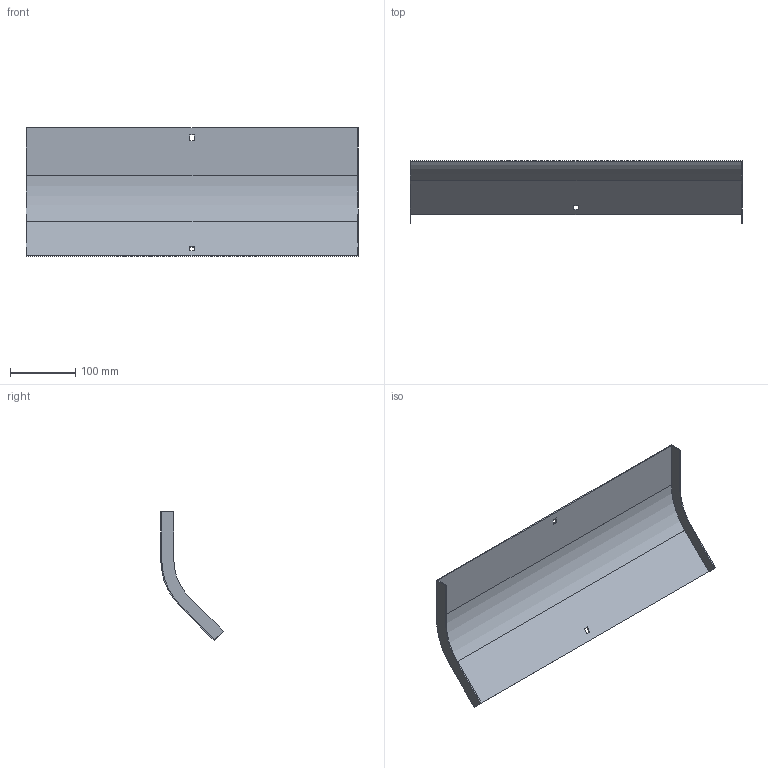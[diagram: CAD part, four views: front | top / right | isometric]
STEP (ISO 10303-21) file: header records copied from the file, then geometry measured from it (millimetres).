
FILE_DESCRIPTION (( 'STEP AP214' ), '1' );
FILE_NAME ('34G1D500.step', '2025-02-21T12:42:31', ( '' ), ( '' ), 'SwSTEP 2.0', 'SolidWorks 2023', '' );
FILE_SCHEMA (( 'AUTOMOTIVE_DESIGN' ));
Length unit declared in the file: millimetre
Products named in the file (1): 34G1D500
Bounding box: 507 x 95.56 x 196.56 mm (x, y, z)
Volume: 183257 mm3; surface area: 246700 mm2
Topology: 1 solids, 1 shells, 26 faces, 72 edges, 48 vertices
Faces by surface type: plane 22, cylinder 4
Entity records: 855 total; most frequent: CARTESIAN_POINT 147, ORIENTED_EDGE 144, DIRECTION 134, EDGE_CURVE 72, VECTOR 64, LINE 64, VERTEX_POINT 48, AXIS2_PLACEMENT_3D 35
